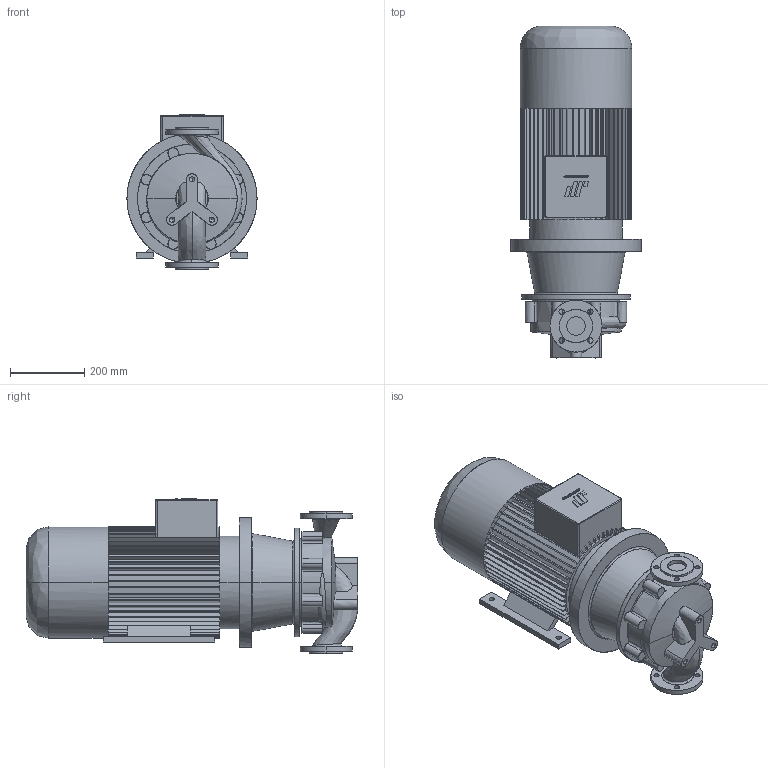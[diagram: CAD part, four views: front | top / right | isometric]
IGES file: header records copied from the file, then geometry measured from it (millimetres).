
Start section: CombiLine
Global section: file name: CLB_50-200_IEC160L.igs; native system:  By UGS Corp.; preprocessor: XPlus GENERIC/IGES 3.0; author: Stageplaats; organization: Johnson Pump Water B.V.; date: 20070713.131655; units: millimetre
Bounding box: 350 x 892.5 x 415 mm (x, y, z)
Surface area: 1725455.4 mm2 (no closed solid volume)
Topology: 0 solids, 0 shells, 578 faces, 3508 edges, 3502 vertices
Faces by surface type: bspline 578
